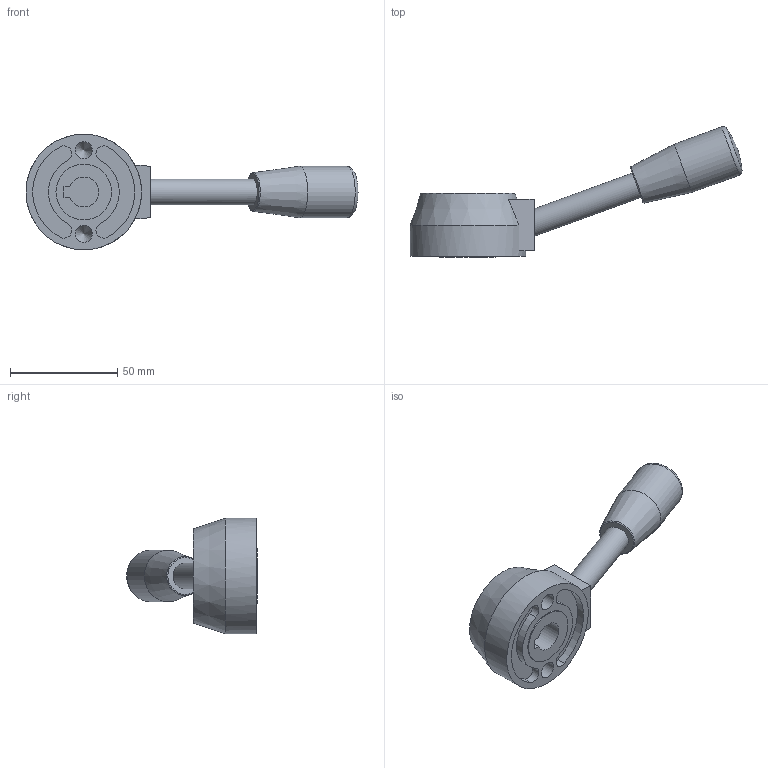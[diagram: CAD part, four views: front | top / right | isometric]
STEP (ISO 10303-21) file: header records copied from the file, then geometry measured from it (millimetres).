
FILE_DESCRIPTION( ( 'STEP AP203' ), '1' );
FILE_NAME( 'C:/Temp/Ganter_Step_05_03_2020/data/2_1/gn_512/gn_512_k/Control lever GN 512-54-K14.stp', '2020-03-05T11:51:41', ( 'License CC BY-ND 4.0' ), ( 'CADENAS' ), ' ', 'PARTsolutions', ' ' );
FILE_SCHEMA( ( 'CONFIG_CONTROL_DESIGN' ) );
Length unit declared in the file: millimetre
Products named in the file (1): _Control lever GN 512-54-K14
Bounding box: 155.09 x 61.04 x 54 mm (x, y, z)
Volume: 81157.6 mm3; surface area: 18501.4 mm2
Topology: 1 solids, 1 shells, 39 faces, 89 edges, 58 vertices
Faces by surface type: plane 16, cylinder 16, cone 4, torus 2, sphere 1
Full cylindrical faces by diameter (mm): 8 x2, 12 x1, 24 x1, 26 x1, 31 x1, 54 x1
Entity records: 1034 total; most frequent: DIRECTION 184, CARTESIAN_POINT 168, ORIENTED_EDGE 136, AXIS2_PLACEMENT_3D 78, EDGE_CURVE 68, EDGE_LOOP 59, VERTEX_POINT 54, FACE_OUTER_BOUND 48
